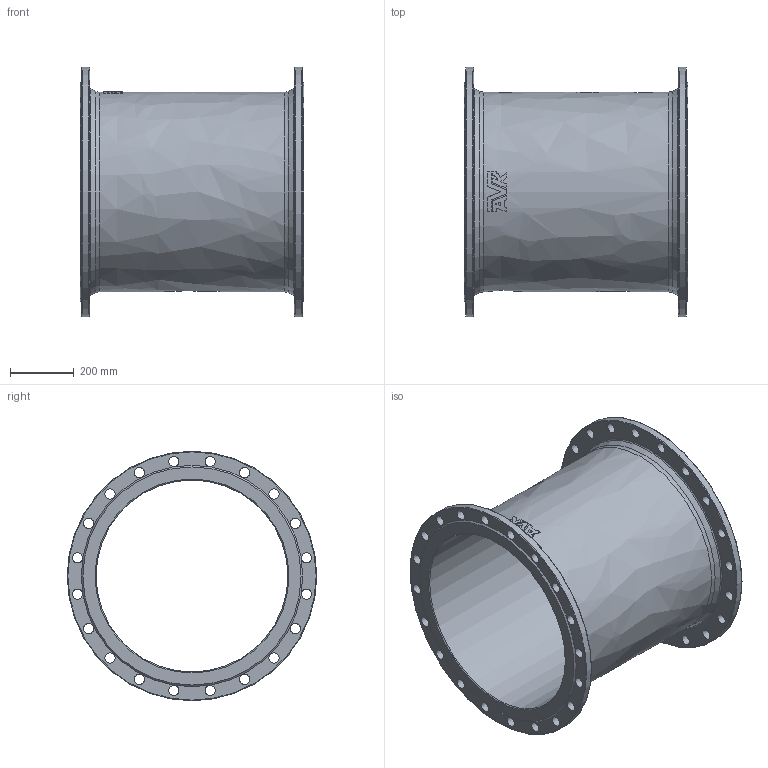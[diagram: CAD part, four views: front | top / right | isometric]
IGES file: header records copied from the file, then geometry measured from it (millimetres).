
Start section: SolidWorks IGES file using analytic representation for surfaces
Global section: file name: \\avksan2\techshare\PBM outline export from Enovia\O_712_5010_DN600_0X_REV01.igs; native system: SolidWorks 2019; preprocessor: SolidWorks 2019; author: pbm; date: 211203.112553; units: millimetre
Bounding box: 700 x 780 x 780 mm (x, y, z)
Surface area: 3423279 mm2 (no closed solid volume)
Topology: 0 solids, 0 shells, 105 faces, 534 edges, 475 vertices
Faces by surface type: revolution 62, bspline 43
